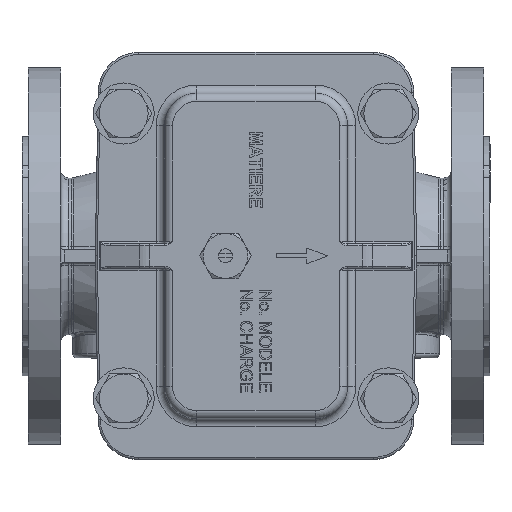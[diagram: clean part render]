
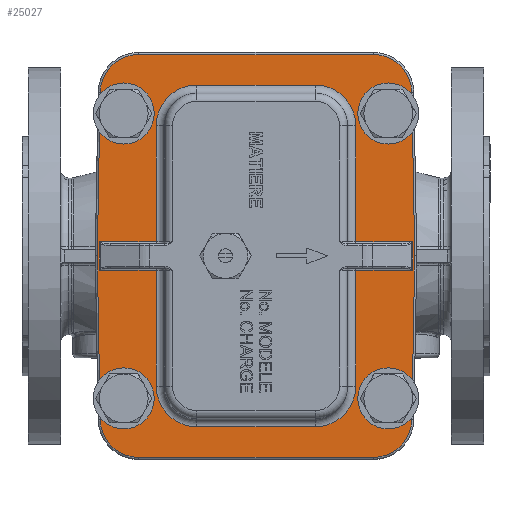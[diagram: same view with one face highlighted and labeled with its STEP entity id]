
A CAD part, top view. The second image highlights one B-rep face of the part: STEP entity #25027.
In plain terms, the highlighted planar face has unit normal (0, 0, 1).
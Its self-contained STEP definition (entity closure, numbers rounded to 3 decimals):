
#1235=FACE_BOUND('',#4270,.T.);
#1236=FACE_BOUND('',#4271,.T.);
#1237=FACE_BOUND('',#4272,.T.);
#1238=FACE_BOUND('',#4273,.T.);
#1239=FACE_BOUND('',#4274,.T.);
#1731=CIRCLE('',#26840,19.);
#1732=CIRCLE('',#26841,19.);
#1733=CIRCLE('',#26842,19.);
#1734=CIRCLE('',#26843,19.);
#1735=CIRCLE('',#26844,20.);
#1736=CIRCLE('',#26845,20.);
#1737=CIRCLE('',#26846,20.);
#1738=CIRCLE('',#26847,20.);
#1739=CIRCLE('',#26848,9.);
#1740=CIRCLE('',#26849,9.);
#1741=CIRCLE('',#26850,9.);
#1742=CIRCLE('',#26851,9.);
#2802=FACE_OUTER_BOUND('',#4269,.T.);
#4269=EDGE_LOOP('',(#18456,#18457,#18458,#18459,#18460,#18461,#18462,#18463,
#18464,#18465));
#4270=EDGE_LOOP('',(#18466,#18467,#18468,#18469,#18470,#18471,#18472,#18473,
#18474,#18475,#18476,#18477,#18478,#18479,#18480,#18481));
#4271=EDGE_LOOP('',(#18482));
#4272=EDGE_LOOP('',(#18483));
#4273=EDGE_LOOP('',(#18484));
#4274=EDGE_LOOP('',(#18485));
#6157=LINE('',#38124,#8529);
#6159=LINE('',#38130,#8531);
#6169=LINE('',#38403,#8541);
#6171=LINE('',#38409,#8543);
#6172=LINE('',#38422,#8544);
#6174=LINE('',#38433,#8546);
#6176=LINE('',#38449,#8548);
#6179=LINE('',#38462,#8551);
#6180=LINE('',#38465,#8552);
#6181=LINE('',#38470,#8553);
#6182=LINE('',#38474,#8554);
#6183=LINE('',#38476,#8555);
#6184=LINE('',#38480,#8556);
#6185=LINE('',#38484,#8557);
#6186=LINE('',#38486,#8558);
#6187=LINE('',#38489,#8559);
#6188=LINE('',#38493,#8560);
#6189=LINE('',#38498,#8561);
#8529=VECTOR('',#29922,10.);
#8531=VECTOR('',#29928,10.);
#8541=VECTOR('',#30016,10.);
#8543=VECTOR('',#30022,10.);
#8544=VECTOR('',#30041,10.);
#8546=VECTOR('',#30057,10.);
#8548=VECTOR('',#30081,10.);
#8551=VECTOR('',#30098,10.);
#8552=VECTOR('',#30101,10.);
#8553=VECTOR('',#30106,10.);
#8554=VECTOR('',#30109,10.);
#8555=VECTOR('',#30110,10.);
#8556=VECTOR('',#30113,10.);
#8557=VECTOR('',#30116,10.);
#8558=VECTOR('',#30117,10.);
#8559=VECTOR('',#30120,10.);
#8560=VECTOR('',#30123,10.);
#8561=VECTOR('',#30128,10.);
#10799=VERTEX_POINT('',#37994);
#10810=VERTEX_POINT('',#38120);
#10812=VERTEX_POINT('',#38128);
#10821=VERTEX_POINT('',#38195);
#10834=VERTEX_POINT('',#38324);
#10836=VERTEX_POINT('',#38407);
#10839=VERTEX_POINT('',#38417);
#10841=VERTEX_POINT('',#38432);
#10844=VERTEX_POINT('',#38448);
#10847=VERTEX_POINT('',#38460);
#10848=VERTEX_POINT('',#38464);
#10849=VERTEX_POINT('',#38468);
#10850=VERTEX_POINT('',#38469);
#10851=VERTEX_POINT('',#38471);
#10852=VERTEX_POINT('',#38473);
#10853=VERTEX_POINT('',#38475);
#10854=VERTEX_POINT('',#38477);
#10855=VERTEX_POINT('',#38479);
#10856=VERTEX_POINT('',#38481);
#10857=VERTEX_POINT('',#38483);
#10858=VERTEX_POINT('',#38485);
#10859=VERTEX_POINT('',#38488);
#10860=VERTEX_POINT('',#38490);
#10861=VERTEX_POINT('',#38492);
#10862=VERTEX_POINT('',#38495);
#10863=VERTEX_POINT('',#38497);
#10864=VERTEX_POINT('',#38500);
#10865=VERTEX_POINT('',#38502);
#10866=VERTEX_POINT('',#38504);
#10867=VERTEX_POINT('',#38506);
#13582=EDGE_CURVE('',#10810,#10799,#6157,.T.);
#13585=EDGE_CURVE('',#10812,#10810,#6159,.T.);
#13625=EDGE_CURVE('',#10834,#10821,#6169,.T.);
#13628=EDGE_CURVE('',#10836,#10834,#6171,.T.);
#13634=EDGE_CURVE('',#10799,#10839,#6172,.T.);
#13639=EDGE_CURVE('',#10821,#10841,#6174,.T.);
#13647=EDGE_CURVE('',#10839,#10844,#6176,.T.);
#13654=EDGE_CURVE('',#10847,#10836,#6179,.T.);
#13655=EDGE_CURVE('',#10841,#10848,#6180,.T.);
#13657=EDGE_CURVE('',#10849,#10850,#6181,.T.);
#13658=EDGE_CURVE('',#10851,#10849,#1731,.T.);
#13659=EDGE_CURVE('',#10852,#10851,#6182,.T.);
#13660=EDGE_CURVE('',#10853,#10852,#6183,.T.);
#13661=EDGE_CURVE('',#10854,#10853,#1732,.T.);
#13662=EDGE_CURVE('',#10855,#10854,#6184,.T.);
#13663=EDGE_CURVE('',#10856,#10855,#1733,.T.);
#13664=EDGE_CURVE('',#10857,#10856,#6185,.T.);
#13665=EDGE_CURVE('',#10858,#10857,#6186,.T.);
#13666=EDGE_CURVE('',#10850,#10858,#1734,.T.);
#13667=EDGE_CURVE('',#10859,#10812,#6187,.T.);
#13668=EDGE_CURVE('',#10860,#10859,#1735,.T.);
#13669=EDGE_CURVE('',#10861,#10860,#6188,.T.);
#13670=EDGE_CURVE('',#10848,#10861,#1736,.T.);
#13671=EDGE_CURVE('',#10862,#10847,#1737,.T.);
#13672=EDGE_CURVE('',#10863,#10862,#6189,.T.);
#13673=EDGE_CURVE('',#10844,#10863,#1738,.T.);
#13674=EDGE_CURVE('',#10864,#10864,#1739,.T.);
#13675=EDGE_CURVE('',#10865,#10865,#1740,.T.);
#13676=EDGE_CURVE('',#10866,#10866,#1741,.T.);
#13677=EDGE_CURVE('',#10867,#10867,#1742,.T.);
#18456=ORIENTED_EDGE('',*,*,#13657,.F.);
#18457=ORIENTED_EDGE('',*,*,#13658,.F.);
#18458=ORIENTED_EDGE('',*,*,#13659,.F.);
#18459=ORIENTED_EDGE('',*,*,#13660,.F.);
#18460=ORIENTED_EDGE('',*,*,#13661,.F.);
#18461=ORIENTED_EDGE('',*,*,#13662,.F.);
#18462=ORIENTED_EDGE('',*,*,#13663,.F.);
#18463=ORIENTED_EDGE('',*,*,#13664,.F.);
#18464=ORIENTED_EDGE('',*,*,#13665,.F.);
#18465=ORIENTED_EDGE('',*,*,#13666,.F.);
#18466=ORIENTED_EDGE('',*,*,#13585,.F.);
#18467=ORIENTED_EDGE('',*,*,#13667,.F.);
#18468=ORIENTED_EDGE('',*,*,#13668,.F.);
#18469=ORIENTED_EDGE('',*,*,#13669,.F.);
#18470=ORIENTED_EDGE('',*,*,#13670,.F.);
#18471=ORIENTED_EDGE('',*,*,#13655,.F.);
#18472=ORIENTED_EDGE('',*,*,#13639,.F.);
#18473=ORIENTED_EDGE('',*,*,#13625,.F.);
#18474=ORIENTED_EDGE('',*,*,#13628,.F.);
#18475=ORIENTED_EDGE('',*,*,#13654,.F.);
#18476=ORIENTED_EDGE('',*,*,#13671,.F.);
#18477=ORIENTED_EDGE('',*,*,#13672,.F.);
#18478=ORIENTED_EDGE('',*,*,#13673,.F.);
#18479=ORIENTED_EDGE('',*,*,#13647,.F.);
#18480=ORIENTED_EDGE('',*,*,#13634,.F.);
#18481=ORIENTED_EDGE('',*,*,#13582,.F.);
#18482=ORIENTED_EDGE('',*,*,#13674,.T.);
#18483=ORIENTED_EDGE('',*,*,#13675,.T.);
#18484=ORIENTED_EDGE('',*,*,#13676,.T.);
#18485=ORIENTED_EDGE('',*,*,#13677,.T.);
#24092=PLANE('',#26839);
#25027=ADVANCED_FACE('',(#2802,#1235,#1236,#1237,#1238,#1239),#24092,.T.);
#26839=AXIS2_PLACEMENT_3D('',#38467,#30104,#30105);
#26840=AXIS2_PLACEMENT_3D('',#38472,#30107,#30108);
#26841=AXIS2_PLACEMENT_3D('',#38478,#30111,#30112);
#26842=AXIS2_PLACEMENT_3D('',#38482,#30114,#30115);
#26843=AXIS2_PLACEMENT_3D('',#38487,#30118,#30119);
#26844=AXIS2_PLACEMENT_3D('',#38491,#30121,#30122);
#26845=AXIS2_PLACEMENT_3D('',#38494,#30124,#30125);
#26846=AXIS2_PLACEMENT_3D('',#38496,#30126,#30127);
#26847=AXIS2_PLACEMENT_3D('',#38499,#30129,#30130);
#26848=AXIS2_PLACEMENT_3D('',#38501,#30131,#30132);
#26849=AXIS2_PLACEMENT_3D('',#38503,#30133,#30134);
#26850=AXIS2_PLACEMENT_3D('',#38505,#30135,#30136);
#26851=AXIS2_PLACEMENT_3D('',#38507,#30137,#30138);
#29922=DIRECTION('',(0.,-1.,0.));
#29928=DIRECTION('',(-1.,0.,0.));
#30016=DIRECTION('',(0.,1.,0.));
#30022=DIRECTION('',(1.,0.,0.));
#30041=DIRECTION('',(1.,0.,0.));
#30057=DIRECTION('',(-1.,0.,0.));
#30081=DIRECTION('',(0.,-1.,0.));
#30098=DIRECTION('',(0.,1.,0.));
#30101=DIRECTION('',(0.,1.,0.));
#30104=DIRECTION('center_axis',(0.,0.,1.));
#30105=DIRECTION('ref_axis',(1.,0.,0.));
#30106=DIRECTION('',(1.,0.,0.));
#30107=DIRECTION('center_axis',(0.,0.,-1.));
#30108=DIRECTION('ref_axis',(-0.701,0.713,0.));
#30109=DIRECTION('',(0.017,1.,0.));
#30110=DIRECTION('',(-0.017,1.,0.));
#30111=DIRECTION('center_axis',(0.,0.,-1.));
#30112=DIRECTION('ref_axis',(-0.701,-0.713,0.));
#30113=DIRECTION('',(-1.,0.,0.));
#30114=DIRECTION('center_axis',(0.,0.,-1.));
#30115=DIRECTION('ref_axis',(0.701,-0.713,0.));
#30116=DIRECTION('',(-0.017,-1.,0.));
#30117=DIRECTION('',(0.017,-1.,0.));
#30118=DIRECTION('center_axis',(0.,0.,-1.));
#30119=DIRECTION('ref_axis',(0.701,0.713,0.));
#30120=DIRECTION('',(0.,-1.,0.));
#30121=DIRECTION('center_axis',(0.,0.,1.));
#30122=DIRECTION('ref_axis',(-0.707,0.707,0.));
#30123=DIRECTION('',(-1.,0.,0.));
#30124=DIRECTION('center_axis',(0.,0.,1.));
#30125=DIRECTION('ref_axis',(0.707,0.707,0.));
#30126=DIRECTION('center_axis',(0.,0.,1.));
#30127=DIRECTION('ref_axis',(0.707,-0.707,0.));
#30128=DIRECTION('',(1.,0.,0.));
#30129=DIRECTION('center_axis',(0.,0.,1.));
#30130=DIRECTION('ref_axis',(-0.707,-0.707,0.));
#30131=DIRECTION('center_axis',(0.,0.,-1.));
#30132=DIRECTION('ref_axis',(-1.,0.,0.));
#30133=DIRECTION('center_axis',(0.,0.,-1.));
#30134=DIRECTION('ref_axis',(-1.,0.,0.));
#30135=DIRECTION('center_axis',(0.,0.,-1.));
#30136=DIRECTION('ref_axis',(-1.,0.,0.));
#30137=DIRECTION('center_axis',(0.,0.,-1.));
#30138=DIRECTION('ref_axis',(-1.,0.,0.));
#37994=CARTESIAN_POINT('',(-76.976,-7.,10.));
#38120=CARTESIAN_POINT('',(-76.976,7.,10.));
#38124=CARTESIAN_POINT('',(-76.976,24.878,10.));
#38128=CARTESIAN_POINT('',(-49.,7.,10.));
#38130=CARTESIAN_POINT('',(-48.16,7.,10.));
#38195=CARTESIAN_POINT('',(76.976,7.,10.));
#38324=CARTESIAN_POINT('',(76.976,-7.,10.));
#38403=CARTESIAN_POINT('',(76.976,24.878,10.));
#38407=CARTESIAN_POINT('',(49.,-7.,10.));
#38409=CARTESIAN_POINT('',(9.093,-7.,10.));
#38417=CARTESIAN_POINT('',(-49.,-7.,10.));
#38422=CARTESIAN_POINT('',(-48.16,-7.,10.));
#38432=CARTESIAN_POINT('',(49.,7.,10.));
#38433=CARTESIAN_POINT('',(9.093,7.,10.));
#38448=CARTESIAN_POINT('',(-49.,-64.,10.));
#38449=CARTESIAN_POINT('',(-49.,24.878,10.));
#38460=CARTESIAN_POINT('',(49.,-64.,10.));
#38462=CARTESIAN_POINT('',(49.,56.878,10.));
#38464=CARTESIAN_POINT('',(49.,64.,10.));
#38465=CARTESIAN_POINT('',(49.,56.878,10.));
#38467=CARTESIAN_POINT('Origin',(-39.067,49.755,10.));
#38468=CARTESIAN_POINT('',(-57.601,99.,10.));
#38469=CARTESIAN_POINT('',(57.601,99.,10.));
#38470=CARTESIAN_POINT('',(-58.161,99.,10.));
#38471=CARTESIAN_POINT('',(-76.598,80.332,10.));
#38472=CARTESIAN_POINT('Origin',(-57.601,80.,10.));
#38473=CARTESIAN_POINT('',(-78.,0.,10.));
#38474=CARTESIAN_POINT('',(-77.56,25.201,10.));
#38475=CARTESIAN_POINT('',(-76.598,-80.332,10.));
#38476=CARTESIAN_POINT('',(-77.555,-25.461,10.));
#38477=CARTESIAN_POINT('',(-57.601,-99.,10.));
#38478=CARTESIAN_POINT('Origin',(-57.601,-80.,10.));
#38479=CARTESIAN_POINT('',(57.601,-99.,10.));
#38480=CARTESIAN_POINT('',(-19.534,-99.,10.));
#38481=CARTESIAN_POINT('',(76.598,-80.332,10.));
#38482=CARTESIAN_POINT('Origin',(57.601,-80.,10.));
#38483=CARTESIAN_POINT('',(78.,0.,10.));
#38484=CARTESIAN_POINT('',(78.416,23.857,10.));
#38485=CARTESIAN_POINT('',(76.598,80.332,10.));
#38486=CARTESIAN_POINT('',(76.675,75.883,10.));
#38487=CARTESIAN_POINT('Origin',(57.601,80.,10.));
#38488=CARTESIAN_POINT('',(-49.,64.,10.));
#38489=CARTESIAN_POINT('',(-49.,24.878,10.));
#38490=CARTESIAN_POINT('',(-29.,84.,10.));
#38491=CARTESIAN_POINT('Origin',(-29.,64.,10.));
#38492=CARTESIAN_POINT('',(29.,84.,10.));
#38493=CARTESIAN_POINT('',(-19.534,84.,10.));
#38494=CARTESIAN_POINT('Origin',(29.,64.,10.));
#38495=CARTESIAN_POINT('',(29.,-84.,10.));
#38496=CARTESIAN_POINT('Origin',(29.,-64.,10.));
#38497=CARTESIAN_POINT('',(-29.,-84.,10.));
#38498=CARTESIAN_POINT('',(-5.034,-84.,10.));
#38499=CARTESIAN_POINT('Origin',(-29.,-64.,10.));
#38500=CARTESIAN_POINT('',(74.,-70.,10.));
#38501=CARTESIAN_POINT('Origin',(65.,-70.,10.));
#38502=CARTESIAN_POINT('',(74.,70.,10.));
#38503=CARTESIAN_POINT('Origin',(65.,70.,10.));
#38504=CARTESIAN_POINT('',(-56.,70.,10.));
#38505=CARTESIAN_POINT('Origin',(-65.,70.,10.));
#38506=CARTESIAN_POINT('',(-56.,-70.,10.));
#38507=CARTESIAN_POINT('Origin',(-65.,-70.,10.));
